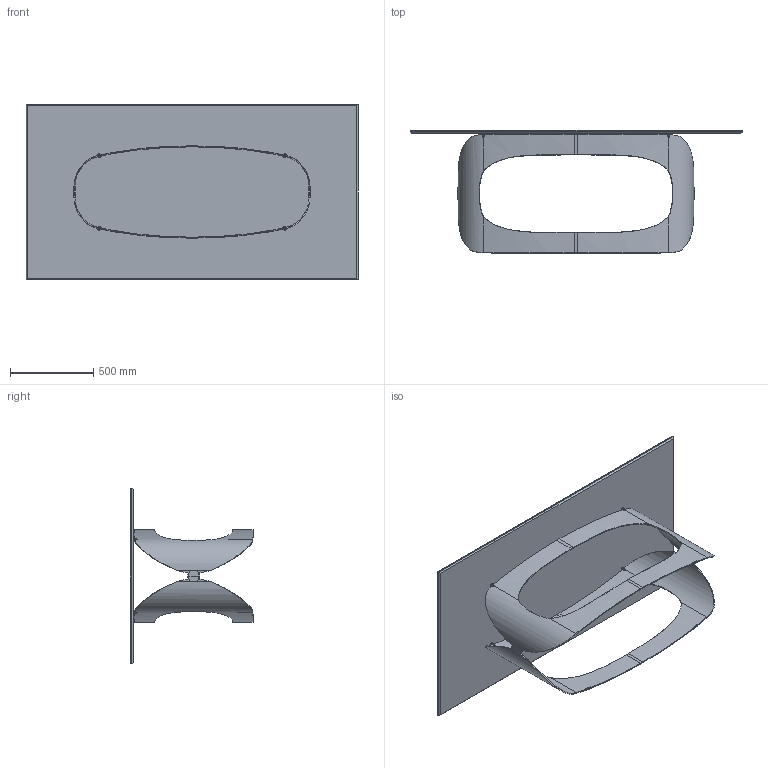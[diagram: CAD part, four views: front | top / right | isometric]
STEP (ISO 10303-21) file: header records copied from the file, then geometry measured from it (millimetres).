
FILE_DESCRIPTION (( 'STEP AP203' ), '1' );
FILE_NAME ('PO21C.STEP', '2024-08-06T14:08:35', ( '' ), ( '' ), 'SwSTEP 2.0', 'SolidWorks 2022', '' );
FILE_SCHEMA (( 'CONFIG_CONTROL_DESIGN' ));
Length unit declared in the file: millimetre
Products named in the file (11): POL000000-00-POLIFEMO BASE X PIANI 200-240_POL000000-00-POLIFEMO BASE L160; POL000000_03B-00-POLIFEMO FREGIO; K2XCMXX-00-Piani Rettangolari in ceramica_2000 x 1060; PVC profilo Polifemo 9x8; POL000000_03A-01-POLIFEMO FREGIO; POL000000_03-01-POLIFEMO FREGIO COMPLETO; PST0GR022-01-PIASTRA D22x22H mm+FILETTO M8 AVP-AVZ GREZZO; POL000000_01-01-MEZZA BASE POLIFEMO X PIANI 200-240_POL000000_03-00-MEZZA BASE PLIFEMO L160; PO21C; PVC Ø19x3; POL000000_02-02-CILINDRO DI FISSAGGIO Ø12X15 M8
Assembly tree (24 placements, depth 3):
  PO21C
    POL000000-00-POLIFEMO BASE X PIANI 200-240_POL000000-00-POLIFEMO BASE L160
      POL000000_01-01-MEZZA BASE POLIFEMO X PIANI 200-240_POL000000_03-00-MEZZA BASE PLIFEMO L160  x2
      POL000000_02-02-CILINDRO DI FISSAGGIO Ø12X15 M8  x4
    POL000000_03-01-POLIFEMO FREGIO COMPLETO  x2
      POL000000_03A-01-POLIFEMO FREGIO
      POL000000_03B-00-POLIFEMO FREGIO
    PST0GR022-01-PIASTRA D22x22H mm+FILETTO M8 AVP-AVZ GREZZO  x4
    PVC Ø19x3  x4
    PVC profilo Polifemo 9x8  x3
    K2XCMXX-00-Piani Rettangolari in ceramica_2000 x 1060
Bounding box: 2000 x 740.97 x 1060 mm (x, y, z)
Volume: 40941308.7 mm3; surface area: 11075748.6 mm2
Topology: 25 solids, 25 shells, 490 faces, 1216 edges, 782 vertices
Faces by surface type: cylinder 225, plane 165, bspline 80, cone 20
Entity records: 17166 total; most frequent: CARTESIAN_POINT 11294, ORIENTED_EDGE 976, DIRECTION 809, EDGE_CURVE 488, VERTEX_POINT 314, AXIS2_PLACEMENT_3D 298, LINE 213, VECTOR 213
